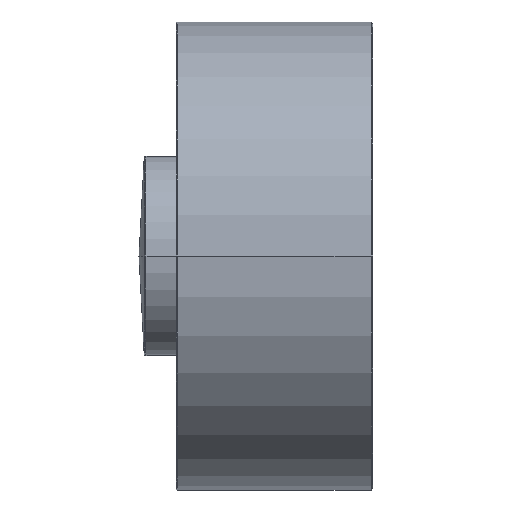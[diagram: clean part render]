
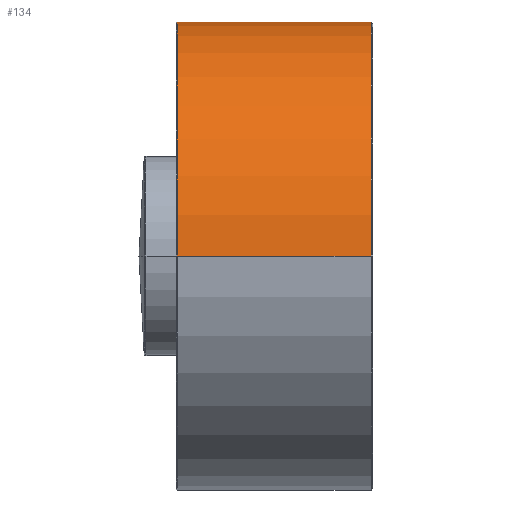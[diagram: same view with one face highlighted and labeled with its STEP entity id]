
A CAD part, left-side view. The second image highlights one B-rep face of the part: STEP entity #134.
In plain terms, the highlighted cylindrical face has radius 25 mm (diameter 50 mm), a partial arc.
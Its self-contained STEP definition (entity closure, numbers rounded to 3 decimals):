
#30 = DIRECTION ( 'NONE',  ( 0., 1., 0. ) ) ;
#134 = ADVANCED_FACE ( 'NONE', ( #9002 ), #2213, .T. ) ;
#193 = VECTOR ( 'NONE', #15297, 1000. ) ;
#280 = CARTESIAN_POINT ( 'NONE',  ( 24.734, -9.274, 3.643 ) ) ;
#451 = CARTESIAN_POINT ( 'NONE',  ( 24.816, -9.68, 3.038 ) ) ;
#889 = CARTESIAN_POINT ( 'NONE',  ( 0., 12.5, 0. ) ) ;
#1093 = CARTESIAN_POINT ( 'NONE',  ( 25., 1.5, 0. ) ) ;
#1504 = CARTESIAN_POINT ( 'NONE',  ( 25., -10.5, 0. ) ) ;
#1642 = CARTESIAN_POINT ( 'NONE',  ( 24.616, -0.371, 4.381 ) ) ;
#1743 = VERTEX_POINT ( 'NONE', #10620 ) ;
#1761 = DIRECTION ( 'NONE',  ( 0., 1., 0. ) ) ;
#1834 = ORIENTED_EDGE ( 'NONE', *, *, #4567, .F. ) ;
#2213 = CYLINDRICAL_SURFACE ( 'NONE', #13495, 25. ) ;
#2271 = VERTEX_POINT ( 'NONE', #5288 ) ;
#2673 = CARTESIAN_POINT ( 'NONE',  ( 24.5, 12.5, 4.975 ) ) ;
#2767 = CARTESIAN_POINT ( 'NONE',  ( 0., 8.392, 0. ) ) ;
#3088 = LINE ( 'NONE', #13849, #15341 ) ;
#3094 = CARTESIAN_POINT ( 'NONE',  ( 24.556, -8.262, 4.7 ) ) ;
#3176 = DIRECTION ( 'NONE',  ( 0., 1., 0. ) ) ;
#3297 = CARTESIAN_POINT ( 'NONE',  ( -25., 12.5, 0. ) ) ;
#3325 = VERTEX_POINT ( 'NONE', #5364 ) ;
#3800 = CARTESIAN_POINT ( 'NONE',  ( 24.889, -10.023, 2.394 ) ) ;
#4218 = CARTESIAN_POINT ( 'NONE',  ( 24.556, -0.737, 4.7 ) ) ;
#4362 = VECTOR ( 'NONE', #30, 1000. ) ;
#4512 = CARTESIAN_POINT ( 'NONE',  ( 25., 12.5, 0. ) ) ;
#4567 = EDGE_CURVE ( 'NONE', #1743, #9239, #13717, .T. ) ;
#4764 = CARTESIAN_POINT ( 'NONE',  ( 24.5, -7.854, 4.975 ) ) ;
#4951 = ORIENTED_EDGE ( 'NONE', *, *, #12824, .T. ) ;
#5125 = CARTESIAN_POINT ( 'NONE',  ( 24.982, -10.425, 0.98 ) ) ;
#5215 = CARTESIAN_POINT ( 'NONE',  ( 24.93, -10.202, 1.929 ) ) ;
#5217 = EDGE_CURVE ( 'NONE', #14445, #15157, #10665, .T. ) ;
#5286 = DIRECTION ( 'NONE',  ( 1., 0., 0. ) ) ;
#5288 = CARTESIAN_POINT ( 'NONE',  ( 25., -12.3, 0. ) ) ;
#5312 = EDGE_CURVE ( 'NONE', #8850, #3325, #15266, .T. ) ;
#5364 = CARTESIAN_POINT ( 'NONE',  ( 25., 8.392, 0. ) ) ;
#5441 = CARTESIAN_POINT ( 'NONE',  ( 24.816, 0.68, 3.037 ) ) ;
#5504 = CIRCLE ( 'NONE', #16190, 25. ) ;
#5769 = CIRCLE ( 'NONE', #10541, 25. ) ;
#5831 = CARTESIAN_POINT ( 'NONE',  ( 24.705, -9.12, 3.836 ) ) ;
#6223 = VERTEX_POINT ( 'NONE', #7045 ) ;
#6548 = DIRECTION ( 'NONE',  ( -1., 0., 0. ) ) ;
#6765 = CARTESIAN_POINT ( 'NONE',  ( 24.5, -1.146, 4.975 ) ) ;
#6889 = CARTESIAN_POINT ( 'NONE',  ( 25., -10.5, 0.246 ) ) ;
#7045 = CARTESIAN_POINT ( 'NONE',  ( 24.5, -1.146, 4.975 ) ) ;
#7747 = DIRECTION ( 'NONE',  ( 0., 1., 0. ) ) ;
#7781 = LINE ( 'NONE', #2673, #4362 ) ;
#7946 = CARTESIAN_POINT ( 'NONE',  ( 25., -10.5, 0. ) ) ;
#7961 = DIRECTION ( 'NONE',  ( 0., -1., 0. ) ) ;
#8059 = ORIENTED_EDGE ( 'NONE', *, *, #16933, .T. ) ;
#8190 = ORIENTED_EDGE ( 'NONE', *, *, #15257, .T. ) ;
#8262 = CARTESIAN_POINT ( 'NONE',  ( 24.985, 1.44, 0.978 ) ) ;
#8387 = CARTESIAN_POINT ( 'NONE',  ( 24.789, -9.553, 3.245 ) ) ;
#8430 = ORIENTED_EDGE ( 'NONE', *, *, #15641, .T. ) ;
#8450 = ORIENTED_EDGE ( 'NONE', *, *, #10930, .T. ) ;
#8505 = CARTESIAN_POINT ( 'NONE',  ( -25., 8.392, 0. ) ) ;
#8561 = CARTESIAN_POINT ( 'NONE',  ( 0., -12.3, 0. ) ) ;
#8850 = VERTEX_POINT ( 'NONE', #1093 ) ;
#9002 = FACE_OUTER_BOUND ( 'NONE', #9889, .T. ) ;
#9239 = VERTEX_POINT ( 'NONE', #8505 ) ;
#9592 = CARTESIAN_POINT ( 'NONE',  ( 24.887, 1.01, 2.386 ) ) ;
#9889 = EDGE_LOOP ( 'NONE', ( #8190, #4951, #13341, #8450, #8430, #12895, #8059, #1834 ) ) ;
#10500 = CARTESIAN_POINT ( 'NONE',  ( 24.971, -10.38, 1.219 ) ) ;
#10541 = AXIS2_PLACEMENT_3D ( 'NONE', #8561, #7747, #5286 ) ;
#10620 = CARTESIAN_POINT ( 'NONE',  ( -25., -12.3, 0. ) ) ;
#10665 = B_SPLINE_CURVE_WITH_KNOTS ( 'NONE', 3,
 ( #1504, #6889, #12274, #5125, #10500, #5215, #3800, #451, #8387, #280, #5831, #16318, #3094, #11198 ),
 .UNSPECIFIED., .F., .F.,
 ( 4, 2, 2, 2, 2, 2, 4 ),
 ( 0.006, 0.007, 0.007, 0.009, 0.01, 0.01, 0.012 ),
 .UNSPECIFIED. ) ;
#10736 = CARTESIAN_POINT ( 'NONE',  ( 24.926, 1.187, 1.929 ) ) ;
#10819 = CARTESIAN_POINT ( 'NONE',  ( 24.944, 1.262, 1.692 ) ) ;
#10930 = EDGE_CURVE ( 'NONE', #15157, #6223, #7781, .T. ) ;
#10989 = CARTESIAN_POINT ( 'NONE',  ( 24.734, 0.271, 3.646 ) ) ;
#11198 = CARTESIAN_POINT ( 'NONE',  ( 24.5, -7.854, 4.975 ) ) ;
#12018 = VECTOR ( 'NONE', #3176, 1000. ) ;
#12235 = CARTESIAN_POINT ( 'NONE',  ( 25., 1.5, 0. ) ) ;
#12274 = CARTESIAN_POINT ( 'NONE',  ( 24.996, -10.485, 0.494 ) ) ;
#12410 = CARTESIAN_POINT ( 'NONE',  ( 24.704, 0.118, 3.839 ) ) ;
#12492 = CARTESIAN_POINT ( 'NONE',  ( 25., 1.5, 0.493 ) ) ;
#12824 = EDGE_CURVE ( 'NONE', #2271, #14445, #3088, .T. ) ;
#12895 = ORIENTED_EDGE ( 'NONE', *, *, #5312, .T. ) ;
#13341 = ORIENTED_EDGE ( 'NONE', *, *, #5217, .T. ) ;
#13495 = AXIS2_PLACEMENT_3D ( 'NONE', #889, #17102, #14384 ) ;
#13717 = LINE ( 'NONE', #3297, #193 ) ;
#13849 = CARTESIAN_POINT ( 'NONE',  ( 25., 12.5, 0. ) ) ;
#14384 = DIRECTION ( 'NONE',  ( -1., 0., 0. ) ) ;
#14445 = VERTEX_POINT ( 'NONE', #7946 ) ;
#15157 = VERTEX_POINT ( 'NONE', #4764 ) ;
#15257 = EDGE_CURVE ( 'NONE', #1743, #2271, #5769, .T. ) ;
#15266 = LINE ( 'NONE', #4512, #12018 ) ;
#15297 = DIRECTION ( 'NONE',  ( 0., 1., 0. ) ) ;
#15341 = VECTOR ( 'NONE', #1761, 1000. ) ;
#15641 = EDGE_CURVE ( 'NONE', #6223, #8850, #17260, .T. ) ;
#16190 = AXIS2_PLACEMENT_3D ( 'NONE', #2767, #7961, #6548 ) ;
#16279 = CARTESIAN_POINT ( 'NONE',  ( 24.789, 0.553, 3.245 ) ) ;
#16318 = CARTESIAN_POINT ( 'NONE',  ( 24.616, -8.629, 4.381 ) ) ;
#16454 = CARTESIAN_POINT ( 'NONE',  ( 24.865, 0.909, 2.608 ) ) ;
#16933 = EDGE_CURVE ( 'NONE', #3325, #9239, #5504, .T. ) ;
#17102 = DIRECTION ( 'NONE',  ( 0., 1., 0. ) ) ;
#17260 = B_SPLINE_CURVE_WITH_KNOTS ( 'NONE', 3,
 ( #6765, #4218, #1642, #12410, #10989, #16279, #5441, #16454, #9592, #10736, #10819, #8262, #12492, #12235 ),
 .UNSPECIFIED., .F., .F.,
 ( 4, 2, 2, 2, 2, 2, 4 ),
 ( 0., 0.001, 0.002, 0.003, 0.004, 0.004, 0.006 ),
 .UNSPECIFIED. ) ;
